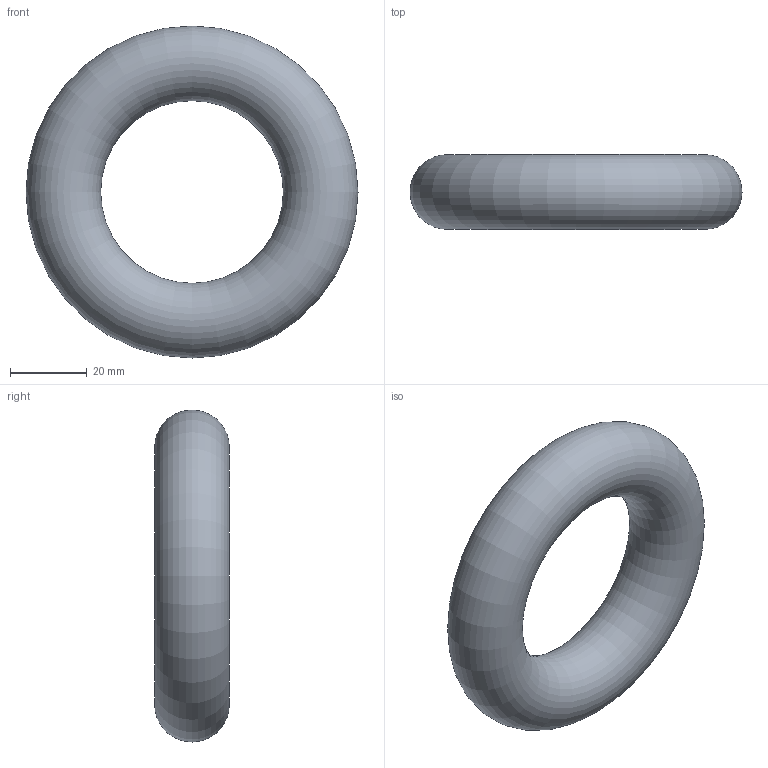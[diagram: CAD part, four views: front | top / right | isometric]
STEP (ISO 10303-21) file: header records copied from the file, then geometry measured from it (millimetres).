
FILE_DESCRIPTION(('Open CASCADE Model'),'2;1');
FILE_NAME('Open CASCADE Shape Model','2026-09-09T00:35:36',('Author'),( 'Open CASCADE'),'Open CASCADE STEP processor 7.7','Open CASCADE 7.7' ,'Unknown');
FILE_SCHEMA(('AUTOMOTIVE_DESIGN { 1 0 10303 214 1 1 1 1 }'));
Length unit declared in the file: millimetre
Products named in the file (1): Open CASCADE STEP translator 7.7 1
Bounding box: 86.4 x 19.44 x 86.4 mm (x, y, z)
Volume: 62437.8 mm3; surface area: 12847.3 mm2
Topology: 1 solids, 1 shells, 1 faces, 2 edges, 1 vertices
Faces by surface type: torus 1
Entity records: 70 total; most frequent: DIRECTION 12, CARTESIAN_POINT 9, AXIS2_PLACEMENT_3D 4, ORIENTED_EDGE 4, PCURVE 4, DEFINITIONAL_REPRESENTATION 4, LINE 4, VECTOR 4
